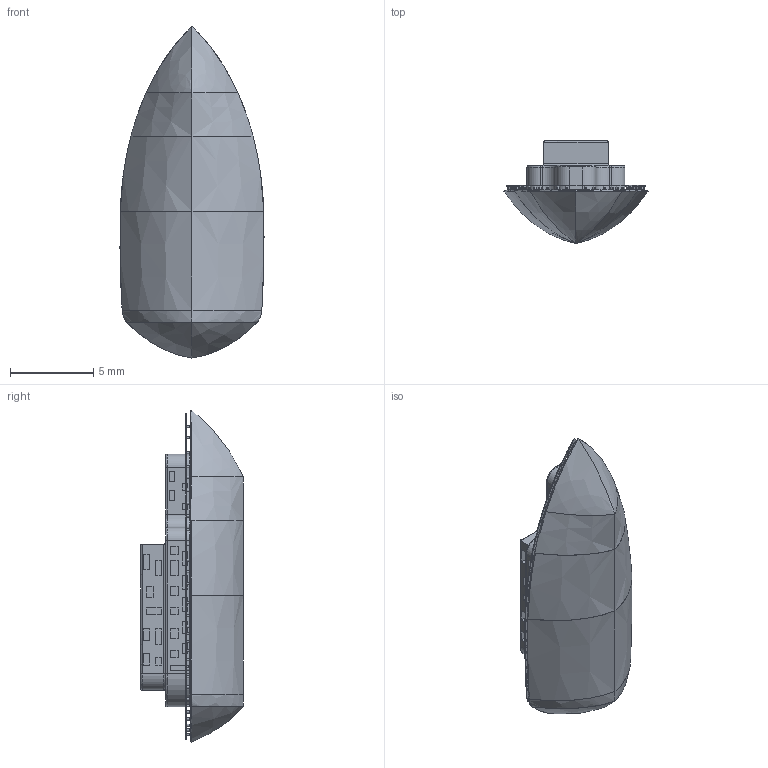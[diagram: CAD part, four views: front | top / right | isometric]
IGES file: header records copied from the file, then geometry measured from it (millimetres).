
Start section: SolidWorks IGES file using analytic representation for surfaces
Global section: file name: C:\Users\A-Hamdy\Downloads\My Ship.IGS; native system: SolidWorks 2011; preprocessor: SolidWorks 2011; author: A-Hamdy; date: 120903.201548; units: millimetre
Bounding box: 8.64 x 6.17 x 19.93 mm (x, y, z)
Surface area: 570.5 mm2 (no closed solid volume)
Topology: 0 solids, 0 shells, 659 faces, 5422 edges, 5417 vertices
Faces by surface type: bspline 505, revolution 154
